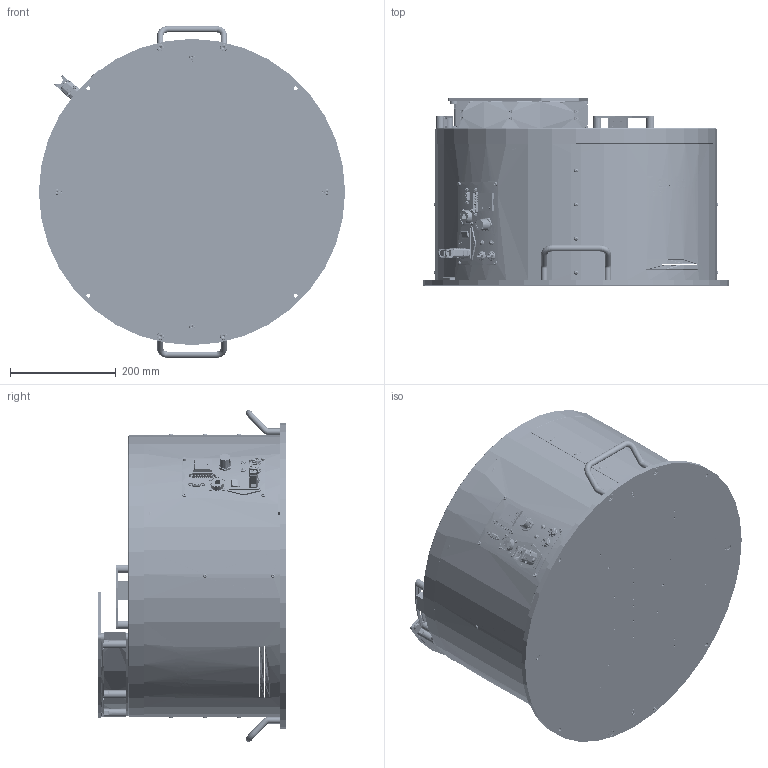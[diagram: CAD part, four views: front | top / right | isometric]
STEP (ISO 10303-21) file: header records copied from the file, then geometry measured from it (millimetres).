
FILE_DESCRIPTION (( 'STEP AP214' ), '1' );
FILE_NAME ('GM000020_FB500C V2.2.STEP', '2023-09-18T13:06:24', ( '' ), ( '' ), 'SwSTEP 2.0', 'SolidWorks 2022', '' );
FILE_SCHEMA (( 'AUTOMOTIVE_DESIGN' ));
Length unit declared in the file: millimetre
Products named in the file (73): GM000020_FB500C V2.2; CM000008_005; PD005829; PD001071; Copia di Guaina^CE000461; CE000013; Copia di CE000325^CE000461; CE000007; CE000005; PD000031; Copia di 43025-1600^CE000463; PD001106; CM000051; PD005827; CM000001; CE000276; PD001118; CM000686; Copia di Connettore te 2 poli - Copia^CE000463; Copia di CE000327^CE000327; CE000463; CM000008; Copia di 39-01-2025^CE000463; Copia di 39-01-2025^CE000327; CE000326; CM000025; PD001119; PD000709; CM000015; PD000043; CM000032; PD006089; CE000327; PD006085; CE000461; CM000015_002; CM000686_001; Copia di Guaina^CE000463; PD006087; PD001117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
Assembly tree (131 placements, depth 3):
  GM000020_FB500C V2.2
    CM000032  x4
    CM000031  x4
    CM000048  x12
    CM000170  x4
    CM000166  x4
    CM000021  x11
    CM000025  x4
    CM000043  x2
    CM000006  x4
    CM000051  x4
    CM000091
    CM000037  x4
    CM000015  x2
      CM000015_001
      CM000015_002
    CE000327
      Copia di CE000327^CE000327
      Copia di 39-01-2025^CE000327
    CE000326
      Copia di Led RDY_FLT^CE000326
      Copia di 39-01-2045^CE000326
    CE000461
      Copia di CE000325^CE000461
      Copia di 43025-0600^CE000461
      Copia di Guaina^CE000461
    CE000463
      Copia di connector_a-ds_25_pp-f^CE000463
      Copia di Connettore te 2 poli - Copia^CE000463
      Copia di 39-01-2025^CE000463
      Copia di 43025-1600^CE000463
      Copia di Guaina^CE000463
    PD001071
    CM000001  x2
    PD001440  x4
    PD006086
    PD006085
    PD006073  x2
    PD001642
    PD000709
    PD000031
    PD001106
    PD001112
    PD001059
    PD000043  x4
    PD001118  x2
    PD001119  x2
    PD001120
    PD001117
    CE000078
    PD001360_FB500
    CE000007
    CE000013  x2
    CE000005
    CM000008
      CM000008_001
      CM000008_002
      CM000008_005
    CE000316
    CM000686
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Bounding box: 580 x 355 x 628.99 mm (x, y, z)
Volume: 6840443.8 mm3; surface area: 2923819.6 mm2
Topology: 135 solids, 154 shells, 10008 faces, 26367 edges, 17163 vertices
Faces by surface type: plane 5344, cylinder 2413, bspline 1212, cone 725, torus 287, sphere 27
Entity records: 432915 total; most frequent: CARTESIAN_POINT 180883, ORIENTED_EDGE 44748, DIRECTION 34729, EDGE_CURVE 22576, VERTEX_POINT 15067, AXIS2_PLACEMENT_3D 11609, LINE 11511, VECTOR 11511
